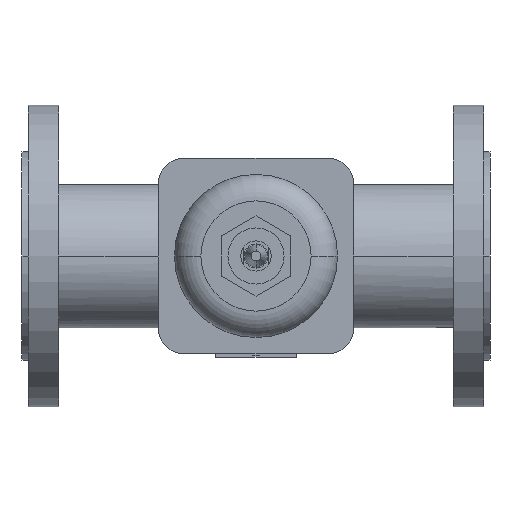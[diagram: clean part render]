
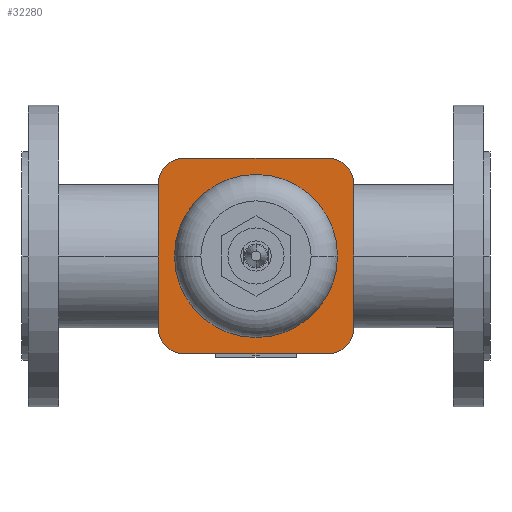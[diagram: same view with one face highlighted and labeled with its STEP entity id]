
A CAD part, front view. The second image highlights one B-rep face of the part: STEP entity #32280.
In plain terms, the highlighted planar face has unit normal (0, -1, 0).
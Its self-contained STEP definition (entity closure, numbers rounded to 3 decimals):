
#10430=CARTESIAN_POINT('',(101.,-124.62,0.));
#10440=VERTEX_POINT('',#10430);
#10620=CARTESIAN_POINT('',(209.,-124.62,0.));
#10630=VERTEX_POINT('',#10620);
#10660=CARTESIAN_POINT('',(155.,-124.62,0.));
#10670=DIRECTION('',(0.,1.,0.));
#10680=DIRECTION('',(1.,0.,0.));
#10690=AXIS2_PLACEMENT_3D('',#10660,#10670,#10680);
#10700=CIRCLE('',#10690,54.);
#10710=EDGE_CURVE('',#10630,#10440,#10700,.T.);
#31480=CARTESIAN_POINT('',(224.75,-124.62,0.));
#31490=DIRECTION('',(0.,-1.,0.));
#31500=DIRECTION('',(-1.,0.,0.));
#31510=AXIS2_PLACEMENT_3D('',#31480,#31490,#31500);
#31520=PLANE('',#31510);
#31530=CARTESIAN_POINT('',(107.27,-124.62,47.73));
#31540=DIRECTION('',(0.,-1.,0.));
#31550=DIRECTION('',(-1.,0.,0.));
#31560=AXIS2_PLACEMENT_3D('',#31530,#31540,#31550);
#31570=CIRCLE('',#31560,17.);
#31580=CARTESIAN_POINT('',(107.27,-124.62,64.73));
#31590=VERTEX_POINT('',#31580);
#31600=CARTESIAN_POINT('',(90.27,-124.62,47.73));
#31610=VERTEX_POINT('',#31600);
#31620=EDGE_CURVE('',#31590,#31610,#31570,.T.);
#31630=ORIENTED_EDGE('',*,*,#31620,.T.);
#31640=CARTESIAN_POINT('',(166.01,-124.62,64.73));
#31650=DIRECTION('',(-1.,0.,0.));
#31660=VECTOR('',#31650,1.);
#31670=LINE('',#31640,#31660);
#31680=CARTESIAN_POINT('',(202.73,-124.62,64.73));
#31690=VERTEX_POINT('',#31680);
#31700=EDGE_CURVE('',#31690,#31590,#31670,.T.);
#31710=ORIENTED_EDGE('',*,*,#31700,.T.);
#31720=CARTESIAN_POINT('',(202.73,-124.62,47.73));
#31730=DIRECTION('',(0.,-1.,0.));
#31740=DIRECTION('',(0.,0.,1.));
#31750=AXIS2_PLACEMENT_3D('',#31720,#31730,#31740);
#31760=CIRCLE('',#31750,17.);
#31770=CARTESIAN_POINT('',(219.73,-124.62,47.73));
#31780=VERTEX_POINT('',#31770);
#31790=EDGE_CURVE('',#31780,#31690,#31760,.T.);
#31800=ORIENTED_EDGE('',*,*,#31790,.T.);
#31810=CARTESIAN_POINT('',(219.73,-124.62,23.865));
#31820=DIRECTION('',(0.,0.,1.));
#31830=VECTOR('',#31820,1.);
#31840=LINE('',#31810,#31830);
#31850=CARTESIAN_POINT('',(219.73,-124.62,-47.73));
#31860=VERTEX_POINT('',#31850);
#31870=EDGE_CURVE('',#31860,#31780,#31840,.T.);
#31880=ORIENTED_EDGE('',*,*,#31870,.T.);
#31890=CARTESIAN_POINT('',(202.73,-124.62,-47.73));
#31900=DIRECTION('',(0.,-1.,0.));
#31910=DIRECTION('',(1.,0.,0.));
#31920=AXIS2_PLACEMENT_3D('',#31890,#31900,#31910);
#31930=CIRCLE('',#31920,17.);
#31940=CARTESIAN_POINT('',(202.73,-124.62,-64.73));
#31950=VERTEX_POINT('',#31940);
#31960=EDGE_CURVE('',#31950,#31860,#31930,.T.);
#31970=ORIENTED_EDGE('',*,*,#31960,.T.);
#31980=CARTESIAN_POINT('',(213.74,-124.62,-64.73));
#31990=DIRECTION('',(1.,0.,0.));
#32000=VECTOR('',#31990,1.);
#32010=LINE('',#31980,#32000);
#32020=CARTESIAN_POINT('',(107.27,-124.62,-64.73));
#32030=VERTEX_POINT('',#32020);
#32040=EDGE_CURVE('',#32030,#31950,#32010,.T.);
#32050=ORIENTED_EDGE('',*,*,#32040,.T.);
#32060=CARTESIAN_POINT('',(107.27,-124.62,-47.73));
#32070=DIRECTION('',(0.,-1.,0.));
#32080=DIRECTION('',(0.,0.,-1.));
#32090=AXIS2_PLACEMENT_3D('',#32060,#32070,#32080);
#32100=CIRCLE('',#32090,17.);
#32110=CARTESIAN_POINT('',(90.27,-124.62,-47.73));
#32120=VERTEX_POINT('',#32110);
#32130=EDGE_CURVE('',#32120,#32030,#32100,.T.);
#32140=ORIENTED_EDGE('',*,*,#32130,.T.);
#32150=CARTESIAN_POINT('',(90.27,-124.62,-23.865));
#32160=DIRECTION('',(0.,0.,-1.));
#32170=VECTOR('',#32160,1.);
#32180=LINE('',#32150,#32170);
#32190=EDGE_CURVE('',#31610,#32120,#32180,.T.);
#32200=ORIENTED_EDGE('',*,*,#32190,.T.);
#32210=EDGE_LOOP('',(#32200,#32140,#32050,#31970,#31880,#31800,#31710,
#31630));
#32220=FACE_OUTER_BOUND('',#32210,.T.);
#32230=EDGE_CURVE('',#10440,#10630,#10700,.T.);
#32240=ORIENTED_EDGE('',*,*,#32230,.T.);
#32250=ORIENTED_EDGE('',*,*,#10710,.T.);
#32260=EDGE_LOOP('',(#32250,#32240));
#32270=FACE_BOUND('',#32260,.T.);
#32280=ADVANCED_FACE('',(#32220,#32270),#31520,.T.);
